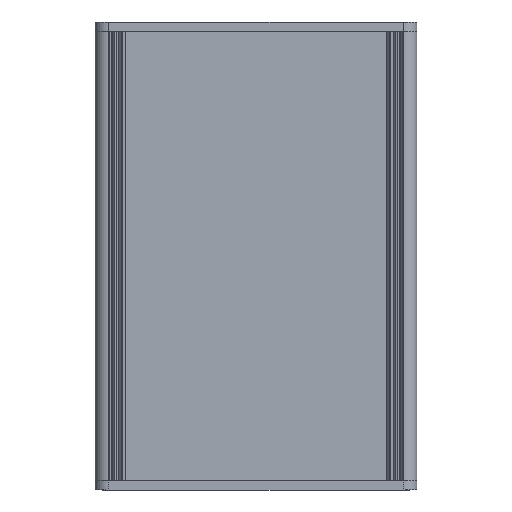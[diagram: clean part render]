
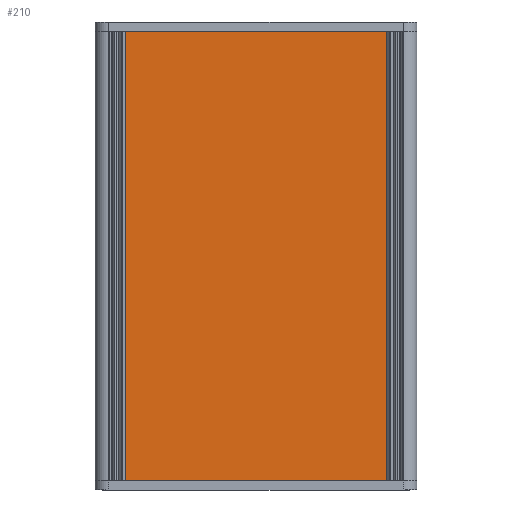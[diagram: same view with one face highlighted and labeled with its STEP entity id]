
A CAD part, front view. The second image highlights one B-rep face of the part: STEP entity #210.
In plain terms, the highlighted planar face has unit normal (0, -1, 0).
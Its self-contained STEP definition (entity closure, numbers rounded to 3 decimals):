
#152=CARTESIAN_POINT('',(64.8,-14.28,100.0));
#153=VERTEX_POINT('',#152);
#161=CARTESIAN_POINT('',(64.8,-14.28,0.0));
#162=VERTEX_POINT('',#161);
#163=CARTESIAN_POINT('',(64.8,-14.28,0.0));
#164=DIRECTION('',(0.0,0.0,1.0));
#165=VECTOR('',#164,100.0);
#166=LINE('',#163,#165);
#167=EDGE_CURVE('',#162,#153,#166,.T.);
#180=CARTESIAN_POINT('',(64.8,-14.28,0.0));
#181=DIRECTION('',(0.0,-1.0,0.0));
#182=DIRECTION('',(0.0,0.0,-1.0));
#183=AXIS2_PLACEMENT_3D('',#180,#181,#182);
#184=PLANE('',#183);
#185=CARTESIAN_POINT('',(6.7,-14.28,100.0));
#186=VERTEX_POINT('',#185);
#187=CARTESIAN_POINT('',(64.8,-14.28,100.0));
#188=DIRECTION('',(-1.0,0.0,0.0));
#189=VECTOR('',#188,58.1);
#190=LINE('',#187,#189);
#191=EDGE_CURVE('',#153,#186,#190,.T.);
#192=ORIENTED_EDGE('',*,*,#191,.T.);
#193=CARTESIAN_POINT('',(6.7,-14.28,0.0));
#194=VERTEX_POINT('',#193);
#195=CARTESIAN_POINT('',(6.7,-14.28,0.0));
#196=DIRECTION('',(0.0,0.0,1.0));
#197=VECTOR('',#196,100.0);
#198=LINE('',#195,#197);
#199=EDGE_CURVE('',#194,#186,#198,.T.);
#200=ORIENTED_EDGE('',*,*,#199,.F.);
#201=CARTESIAN_POINT('',(6.7,-14.28,0.0));
#202=DIRECTION('',(1.0,0.0,0.0));
#203=VECTOR('',#202,58.1);
#204=LINE('',#201,#203);
#205=EDGE_CURVE('',#194,#162,#204,.T.);
#206=ORIENTED_EDGE('',*,*,#205,.T.);
#207=ORIENTED_EDGE('',*,*,#167,.T.);
#208=EDGE_LOOP('',(#192,#200,#206,#207));
#209=FACE_OUTER_BOUND('',#208,.T.);
#210=ADVANCED_FACE('',(#209),#184,.T.);
